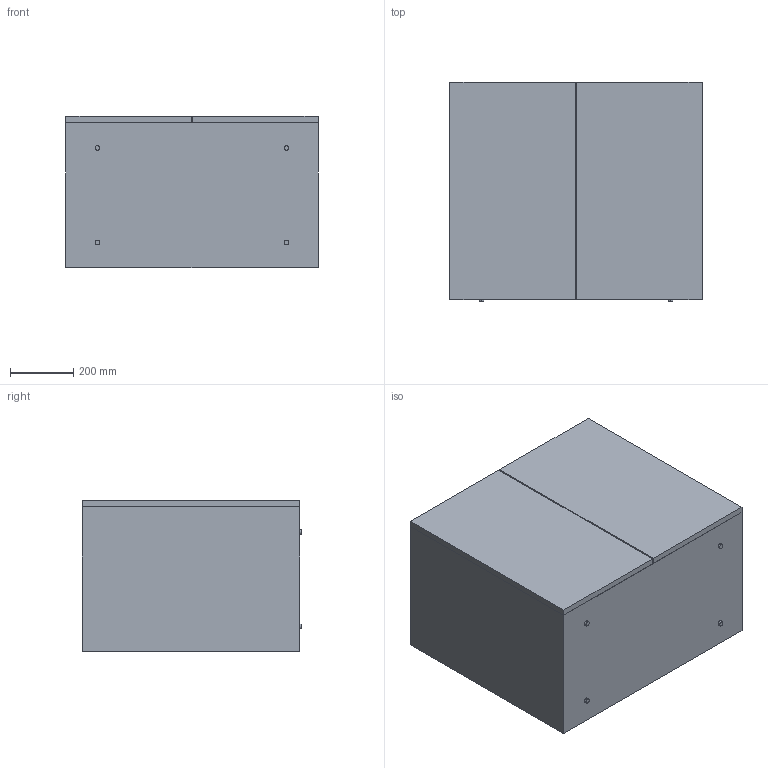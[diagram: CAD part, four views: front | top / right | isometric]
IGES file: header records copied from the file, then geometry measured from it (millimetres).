
Start section: SolidWorks IGES file using NURBS representation for surfaces
Global section: file name: G:\VICCARBE\PRODUCTOS\12-LEG-IN\04-MODELADOS (PLANOS)\SOLIDWORKS\LEG_IN 2011\ENSAMBLAJES\Mesas 3D\IGES\BUCS\VICCARBE_DO800DP.IGS; native system: SolidWorks 2009; preprocessor: SolidWorks 2009; author: RUBEN; date: 111024.103656; units: millimetre
Bounding box: 800 x 697 x 480 mm (x, y, z)
Surface area: 5931121.4 mm2 (no closed solid volume)
Topology: 0 solids, 0 shells, 59 faces, 848 edges, 848 vertices
Faces by surface type: bspline 59
